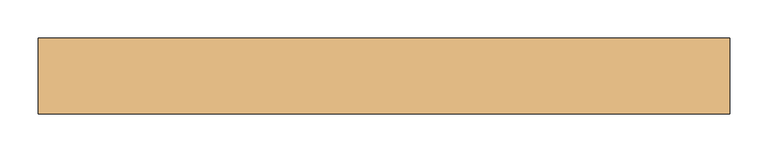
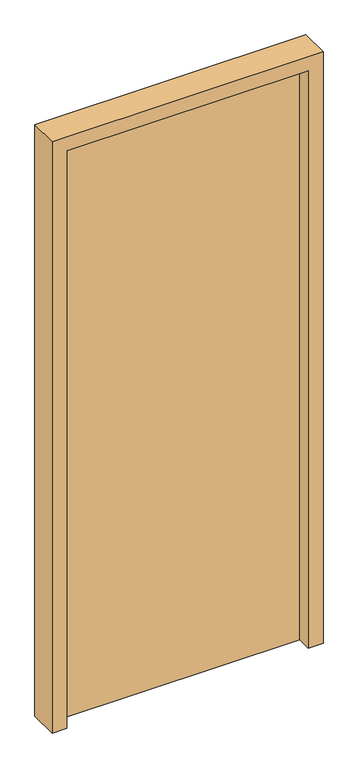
"""IFC4 building model written with IfcOpenShell, lengths in millimetres: door geometry, (Dr)_ДУ(распашная)_1Ст_Прямоугольная : (Вн)_ДГ(0.91х2.1(h))."""

from ifc_helpers import new_model, si_unit, frame, origin, origin_with_axes, place, context, project, spatial, polyline, outline, extrude, source, transform, mapped, element, save


def door_4d77744a(model_context):
    return source(origin(), model_context, "Body", "SweptSolid", [
        extrude(outline(polyline([(405.0, 50.0), (405.0, 0.0), (-405.0, 0.0), (-405.0, 50.0), (405.0, 50.0)])), origin_with_axes(), (0.0, 0.0, 1.0), 2050.0),
        extrude(outline(polyline([(0.0, -455.0), (0.0, -405.0), (2050.0, -405.0), (2050.0, 405.0), (0.0, 405.0), (0.0, 455.0), (2100.0, 455.0), (2100.0, -455.0), (0.0, -455.0)])), frame((0.0, -50.0, 0.0), z_axis=(0.0, 1.0, 0.0), x_axis=(0.0, 0.0, 1.0)), (0.0, 0.0, 1.0), 100.0),
    ])


if __name__ == "__main__":
    model = new_model("IFC4")
    model_context = context("Model", 3, world=origin())
    ifc_project = project(units=[si_unit("LENGTHUNIT", "METRE", prefix="MILLI")], contexts=[model_context])
    site = spatial("IfcSite", under=ifc_project)
    building = spatial("IfcBuilding", under=site)
    placement = place(None, origin())
    door_shape = door_4d77744a(model_context)
    element("IfcDoor", 1, ObjectType="(Dr)_ДУ(распашная)_1Ст_Прямоугольная : (Вн)_ДГ(0.91х2.1(h))", at=placement, inside=building, context=model_context, shape_type="MappedRepresentation", body=[
        mapped(door_shape, transform((0.0, 0.0, 0.0), x_axis=(1.0, 0.0, 0.0), y_axis=(0.0, 1.0, 0.0), z_axis=(0.0, 0.0, 1.0))),
    ])
    save(model, "model.ifc")
